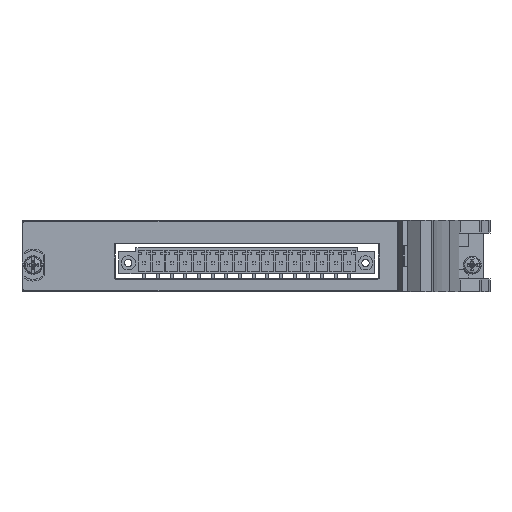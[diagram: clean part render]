
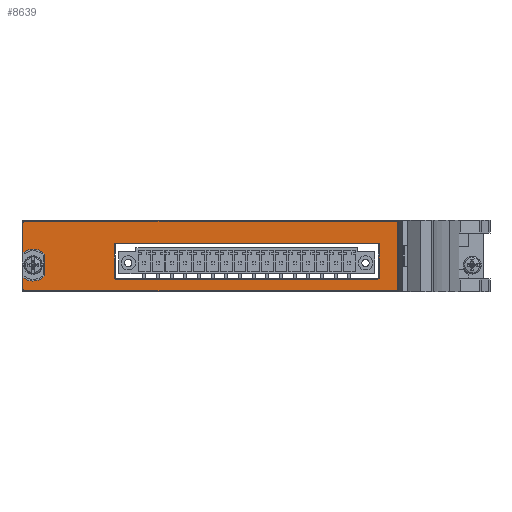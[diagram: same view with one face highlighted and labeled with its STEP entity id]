
A CAD part, left-side view. The second image highlights one B-rep face of the part: STEP entity #8639.
In plain terms, the highlighted planar face has unit normal (-1, 0, 0).
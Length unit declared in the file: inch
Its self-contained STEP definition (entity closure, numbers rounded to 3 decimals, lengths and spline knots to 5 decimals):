
#2690=CARTESIAN_POINT('',(-0.22,0.53444,0.666));
#2691=DIRECTION('',(-1.,0.,0.));
#2692=DIRECTION('',(0.,0.,1.));
#2693=AXIS2_PLACEMENT_3D('',#2690,#2691,#2692);
#2695=DIRECTION('',(0.,1.,0.));
#2696=VECTOR('',#2695,4.07);
#2697=CARTESIAN_POINT('',(-0.22,-3.53556,0.686));
#2698=LINE('',#2697,#2696);
#2699=CARTESIAN_POINT('',(-0.22,-3.53556,0.666));
#2700=DIRECTION('',(-1.,0.,0.));
#2701=DIRECTION('',(0.,-1.,0.));
#2702=AXIS2_PLACEMENT_3D('',#2699,#2700,#2701);
#2704=DIRECTION('',(0.,0.,1.));
#2705=VECTOR('',#2704,0.728);
#2706=CARTESIAN_POINT('',(-0.22,-3.55556,-0.062));
#2707=LINE('',#2706,#2705);
#2708=CARTESIAN_POINT('',(-0.22,-3.53556,-0.062));
#2709=DIRECTION('',(-1.,0.,0.));
#2710=DIRECTION('',(0.,0.,-1.));
#2711=AXIS2_PLACEMENT_3D('',#2708,#2709,#2710);
#2713=DIRECTION('',(0.,-1.,0.));
#2714=VECTOR('',#2713,4.07);
#2715=CARTESIAN_POINT('',(-0.22,0.53444,-0.082));
#2716=LINE('',#2715,#2714);
#2717=CARTESIAN_POINT('',(-0.22,0.53444,-0.062));
#2718=DIRECTION('',(-1.,0.,0.));
#2719=DIRECTION('',(0.,1.,0.));
#2720=AXIS2_PLACEMENT_3D('',#2717,#2718,#2719);
#2722=DIRECTION('',(0.,0.,-1.));
#2723=VECTOR('',#2722,0.12953);
#2724=CARTESIAN_POINT('',(-0.22,0.55444,0.06753));
#2725=LINE('',#2724,#2723);
#2726=CARTESIAN_POINT('',(-0.22,0.44244,0.202));
#2727=DIRECTION('',(1.,0.,0.));
#2728=DIRECTION('',(0.,-0.737,-0.676));
#2729=AXIS2_PLACEMENT_3D('',#2726,#2727,#2728);
#2731=DIRECTION('',(0.,0.,-1.));
#2732=VECTOR('',#2731,0.23651);
#2733=CARTESIAN_POINT('',(-0.22,0.31344,0.32025));
#2734=LINE('',#2733,#2732);
#2735=CARTESIAN_POINT('',(-0.22,0.44244,0.202));
#2736=DIRECTION('',(1.,0.,0.));
#2737=DIRECTION('',(0.,0.64,0.768));
#2738=AXIS2_PLACEMENT_3D('',#2735,#2736,#2737);
#2740=DIRECTION('',(0.,0.,-1.));
#2741=VECTOR('',#2740,0.32953);
#2742=CARTESIAN_POINT('',(-0.22,0.55444,0.666));
#2743=LINE('',#2742,#2741);
#2744=DIRECTION('',(0.,1.,0.));
#2745=VECTOR('',#2744,2.86906);
#2746=CARTESIAN_POINT('',(-0.22,-3.33906,0.44443));
#2747=LINE('',#2746,#2745);
#2748=DIRECTION('',(0.,0.,-1.));
#2749=VECTOR('',#2748,0.35543);
#2750=CARTESIAN_POINT('',(-0.22,-0.45,0.42443));
#2751=LINE('',#2750,#2749);
#2752=DIRECTION('',(0.,-1.,0.));
#2753=VECTOR('',#2752,2.86906);
#2754=CARTESIAN_POINT('',(-0.22,-0.47,0.049));
#2755=LINE('',#2754,#2753);
#2756=DIRECTION('',(0.,0.,1.));
#2757=VECTOR('',#2756,0.35543);
#2758=CARTESIAN_POINT('',(-0.22,-3.35906,0.069));
#2759=LINE('',#2758,#2757);
#2856=CARTESIAN_POINT('',(-0.22,-3.33906,0.42443));
#2857=DIRECTION('',(1.,0.,0.));
#2858=DIRECTION('',(0.,0.,1.));
#2859=AXIS2_PLACEMENT_3D('',#2856,#2857,#2858);
#2861=CARTESIAN_POINT('',(-0.22,-3.33906,0.069));
#2862=DIRECTION('',(1.,0.,0.));
#2863=DIRECTION('',(0.,-1.,0.));
#2864=AXIS2_PLACEMENT_3D('',#2861,#2862,#2863);
#2874=CARTESIAN_POINT('',(-0.22,-0.47,0.069));
#2875=DIRECTION('',(1.,0.,0.));
#2876=DIRECTION('',(0.,0.,-1.));
#2877=AXIS2_PLACEMENT_3D('',#2874,#2875,#2876);
#2887=CARTESIAN_POINT('',(-0.22,-0.47,0.42443));
#2888=DIRECTION('',(1.,0.,0.));
#2889=DIRECTION('',(0.,1.,0.));
#2890=AXIS2_PLACEMENT_3D('',#2887,#2888,#2889);
#4496=CARTESIAN_POINT('',(-0.22,0.53444,0.686));
#4497=CARTESIAN_POINT('',(-0.22,0.55444,0.666));
#4498=VERTEX_POINT('',#4496);
#4499=VERTEX_POINT('',#4497);
#4500=CARTESIAN_POINT('',(-0.22,0.55444,0.33647));
#4501=VERTEX_POINT('',#4500);
#4502=CARTESIAN_POINT('',(-0.22,0.31344,0.32025));
#4503=VERTEX_POINT('',#4502);
#4504=CARTESIAN_POINT('',(-0.22,0.31344,0.08375));
#4505=VERTEX_POINT('',#4504);
#4506=CARTESIAN_POINT('',(-0.22,0.55444,0.06753));
#4507=VERTEX_POINT('',#4506);
#4508=CARTESIAN_POINT('',(-0.22,0.55444,-0.062));
#4509=VERTEX_POINT('',#4508);
#4510=CARTESIAN_POINT('',(-0.22,0.53444,-0.082));
#4511=VERTEX_POINT('',#4510);
#4512=CARTESIAN_POINT('',(-0.22,-3.53556,-0.082));
#4513=VERTEX_POINT('',#4512);
#4514=CARTESIAN_POINT('',(-0.22,-3.55556,-0.062));
#4515=VERTEX_POINT('',#4514);
#4516=CARTESIAN_POINT('',(-0.22,-3.55556,0.666));
#4517=VERTEX_POINT('',#4516);
#4518=CARTESIAN_POINT('',(-0.22,-3.53556,0.686));
#4519=VERTEX_POINT('',#4518);
#4520=CARTESIAN_POINT('',(-0.22,-3.35906,0.069));
#4521=CARTESIAN_POINT('',(-0.22,-3.35906,0.42443));
#4522=VERTEX_POINT('',#4520);
#4523=VERTEX_POINT('',#4521);
#4524=CARTESIAN_POINT('',(-0.22,-3.33906,0.44443));
#4525=CARTESIAN_POINT('',(-0.22,-0.47,0.44443));
#4526=VERTEX_POINT('',#4524);
#4527=VERTEX_POINT('',#4525);
#4528=CARTESIAN_POINT('',(-0.22,-0.45,0.42443));
#4529=CARTESIAN_POINT('',(-0.22,-0.45,0.069));
#4530=VERTEX_POINT('',#4528);
#4531=VERTEX_POINT('',#4529);
#4532=CARTESIAN_POINT('',(-0.22,-0.47,0.049));
#4533=CARTESIAN_POINT('',(-0.22,-3.33906,0.049));
#4534=VERTEX_POINT('',#4532);
#4535=VERTEX_POINT('',#4533);
#8595=CARTESIAN_POINT('',(-0.22,0.44244,0.202));
#8596=DIRECTION('',(-1.,0.,0.));
#8597=DIRECTION('',(0.,0.,1.));
#8598=AXIS2_PLACEMENT_3D('',#8595,#8596,#8597);
#8599=PLANE('',#8598);
#8600=ORIENTED_EDGE('',*,*,#8546,.F.);
#8601=ORIENTED_EDGE('',*,*,#8561,.F.);
#8602=ORIENTED_EDGE('',*,*,#8576,.F.);
#8603=ORIENTED_EDGE('',*,*,#8589,.F.);
#8604=ORIENTED_EDGE('',*,*,#8484,.F.);
#8606=ORIENTED_EDGE('',*,*,#8605,.F.);
#8608=ORIENTED_EDGE('',*,*,#8607,.F.);
#8610=ORIENTED_EDGE('',*,*,#8609,.F.);
#8612=ORIENTED_EDGE('',*,*,#8611,.F.);
#8614=ORIENTED_EDGE('',*,*,#8613,.F.);
#8616=ORIENTED_EDGE('',*,*,#8615,.F.);
#8618=ORIENTED_EDGE('',*,*,#8617,.F.);
#8619=EDGE_LOOP('',(#8600,#8601,#8602,#8603,#8604,#8606,#8608,#8610,#8612,#8614,
#8616,#8618));
#8620=FACE_OUTER_BOUND('',#8619,.F.);
#8622=ORIENTED_EDGE('',*,*,#8621,.T.);
#8624=ORIENTED_EDGE('',*,*,#8623,.F.);
#8626=ORIENTED_EDGE('',*,*,#8625,.T.);
#8628=ORIENTED_EDGE('',*,*,#8627,.F.);
#8630=ORIENTED_EDGE('',*,*,#8629,.T.);
#8632=ORIENTED_EDGE('',*,*,#8631,.F.);
#8634=ORIENTED_EDGE('',*,*,#8633,.T.);
#8636=ORIENTED_EDGE('',*,*,#8635,.F.);
#8637=EDGE_LOOP('',(#8622,#8624,#8626,#8628,#8630,#8632,#8634,#8636));
#8638=FACE_BOUND('',#8637,.F.);
#8639=ADVANCED_FACE('',(#8620,#8638),#8599,.T.);
#2694=CIRCLE('',#2693,0.02);
#2703=CIRCLE('',#2702,0.02);
#2712=CIRCLE('',#2711,0.02);
#2721=CIRCLE('',#2720,0.02);
#2730=CIRCLE('',#2729,0.175);
#2739=CIRCLE('',#2738,0.175);
#2860=CIRCLE('',#2859,0.02);
#2865=CIRCLE('',#2864,0.02);
#2878=CIRCLE('',#2877,0.02);
#2891=CIRCLE('',#2890,0.02);
#8484=EDGE_CURVE('',#4513,#4515,#2712,.T.);
#8546=EDGE_CURVE('',#4498,#4499,#2694,.T.);
#8561=EDGE_CURVE('',#4519,#4498,#2698,.T.);
#8576=EDGE_CURVE('',#4517,#4519,#2703,.T.);
#8589=EDGE_CURVE('',#4515,#4517,#2707,.T.);
#8605=EDGE_CURVE('',#4511,#4513,#2716,.T.);
#8607=EDGE_CURVE('',#4509,#4511,#2721,.T.);
#8609=EDGE_CURVE('',#4507,#4509,#2725,.T.);
#8611=EDGE_CURVE('',#4505,#4507,#2730,.T.);
#8613=EDGE_CURVE('',#4503,#4505,#2734,.T.);
#8615=EDGE_CURVE('',#4501,#4503,#2739,.T.);
#8617=EDGE_CURVE('',#4499,#4501,#2743,.T.);
#8621=EDGE_CURVE('',#4526,#4527,#2747,.T.);
#8623=EDGE_CURVE('',#4530,#4527,#2891,.T.);
#8625=EDGE_CURVE('',#4530,#4531,#2751,.T.);
#8627=EDGE_CURVE('',#4534,#4531,#2878,.T.);
#8629=EDGE_CURVE('',#4534,#4535,#2755,.T.);
#8631=EDGE_CURVE('',#4522,#4535,#2865,.T.);
#8633=EDGE_CURVE('',#4522,#4523,#2759,.T.);
#8635=EDGE_CURVE('',#4526,#4523,#2860,.T.);
